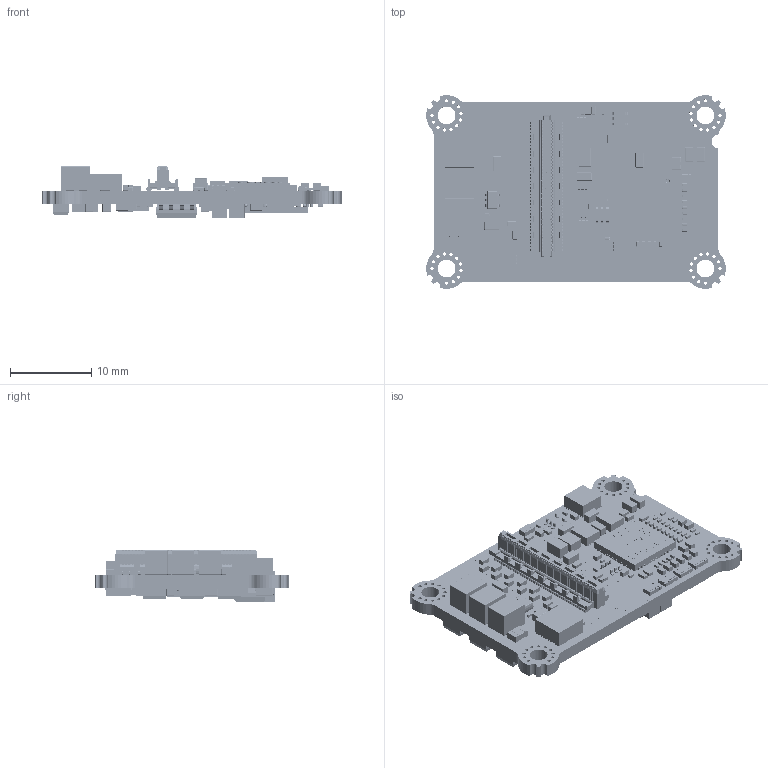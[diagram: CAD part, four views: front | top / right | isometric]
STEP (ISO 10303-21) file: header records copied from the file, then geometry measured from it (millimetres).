
FILE_DESCRIPTION((''),'2;1');
FILE_NAME('11729835','2024-10-10T09:15:24',('MMAGGUKA'),(''),'CREO PARAMETRIC BY PTC INC, 2022484','CREO PARAMETRIC BY PTC INC, 2022484','');
FILE_SCHEMA(('CONFIG_CONTROL_DESIGN','SHAPE_APPEARANCE_LAYERS_GROUPS'));
Products named in the file (1): 11729835
Bounding box: 36.8 x 23.8 x 6.48 mm (x, y, z)
Volume: 1815.8 mm3; surface area: 3828.7 mm2
Topology: 28 solids, 28 shells, 13566 faces, 38047 edges, 22767 vertices
Faces by surface type: plane 7909, cylinder 4128, sphere 1392, extrusion 117, torus 20
Entity records: 466545 total; most frequent: CARTESIAN_POINT 80273, ORIENTED_EDGE 72958, DIRECTION 68307, EDGE_CURVE 36479, VECTOR 28507, LINE 28390, VERTEX_POINT 22767, AXIS2_PLACEMENT_3D 19900
